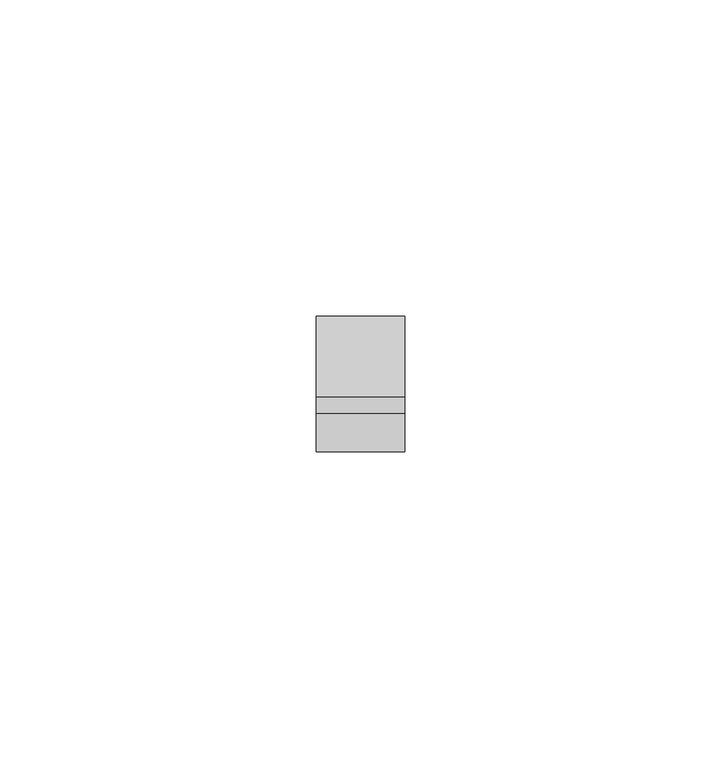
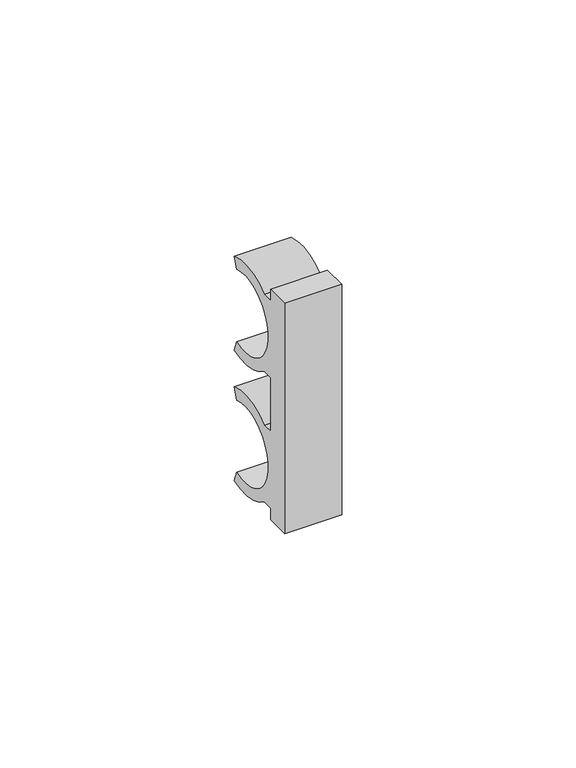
"""IFC4 building model written with IfcOpenShell, lengths in millimetres: valve geometry, PP-R_Double clip : DN15 PP-R double clip."""

from ifc_helpers import new_model, si_unit, point, frame, frame_2d, origin, place, context, project, spatial, polyline, circle_curve, trimmed, segment, composite_curve, outline, extrude, source, transform, mapped, element, save


def valve_4eb3a0af(model_context):
    return source(origin(), model_context, "Body", "SweptSolid", [
        extrude(outline(composite_curve([segment(trimmed(circle_curve(frame_2d((0.0, 18.0)), 10.0), [point((3.4202014, 27.3969262))], [point((3.4202014, 8.6030738))], True, "CARTESIAN"), True, "CONTINUOUS"), segment(polyline([(3.4202014, 8.6030738), (4.4462619, 5.7839959)]), True, "CONTINUOUS"), segment(trimmed(circle_curve(frame_2d((0.0, 18.0)), 13.0), [point((4.4462619, 5.7839959))], [point((-8.3066239, 8.0))], False, "CARTESIAN"), True, "CONTINUOUS"), segment(polyline([(-8.3066239, 8.0), (-11.0, 8.0), (-11.0, 5.0), (-17.0, 5.0), (-17.0, 65.0), (-11.0, 65.0), (-11.0, 62.0), (-8.3066239, 62.0)]), True, "CONTINUOUS"), segment(trimmed(circle_curve(frame_2d((0.0, 52.0)), 13.0), [point((-8.3066239, 62.0))], [point((4.4462619, 64.2160041))], False, "CARTESIAN"), True, "CONTINUOUS"), segment(polyline([(4.4462619, 64.2160041), (3.4202014, 61.3969262)]), True, "CONTINUOUS"), segment(trimmed(circle_curve(frame_2d((0.0, 52.0)), 10.0), [point((3.4202014, 61.3969262))], [point((3.4202014, 42.6030738))], True, "CARTESIAN"), True, "CONTINUOUS"), segment(polyline([(3.4202014, 42.6030738), (4.4462619, 39.7839959)]), True, "CONTINUOUS"), segment(trimmed(circle_curve(frame_2d((0.0, 52.0)), 13.0), [point((4.4462619, 39.7839959))], [point((-8.3066239, 42.0))], False, "CARTESIAN"), True, "CONTINUOUS"), segment(polyline([(-8.3066239, 42.0), (-11.0, 42.0), (-11.0, 28.0), (-8.3066239, 28.0)]), True, "CONTINUOUS"), segment(trimmed(circle_curve(frame_2d((0.0, 18.0)), 13.0), [point((-8.3066239, 28.0))], [point((4.4462619, 30.2160041))], False, "CARTESIAN"), True, "CONTINUOUS"), segment(polyline([(4.4462619, 30.2160041), (3.4202014, 27.3969262)]), True, "CONTINUOUS")], self_intersect=False)), frame((9.5156627, 0.0, 0.0), z_axis=(1.0, 0.0, 0.0), x_axis=(0.0, 1.0, 0.0)), (0.0, 0.0, 1.0), 14.0),
    ])


if __name__ == "__main__":
    model = new_model("IFC4")
    model_context = context("Model", 3, world=origin())
    ifc_project = project(units=[si_unit("LENGTHUNIT", "METRE", prefix="MILLI")], contexts=[model_context])
    site = spatial("IfcSite", under=ifc_project)
    building = spatial("IfcBuilding", under=site)
    placement = place(None, origin())
    valve_shape = valve_4eb3a0af(model_context)
    element("IfcValve", 1, ObjectType="PP-R_Double clip : DN15 PP-R double clip", at=placement, inside=building, context=model_context, shape_type="MappedRepresentation", body=[
        mapped(valve_shape, transform((0.0, 0.0, 0.0), x_axis=(1.0, 0.0, 0.0), y_axis=(0.0, 1.0, 0.0), z_axis=(0.0, 0.0, 1.0))),
    ])
    save(model, "model.ifc")
